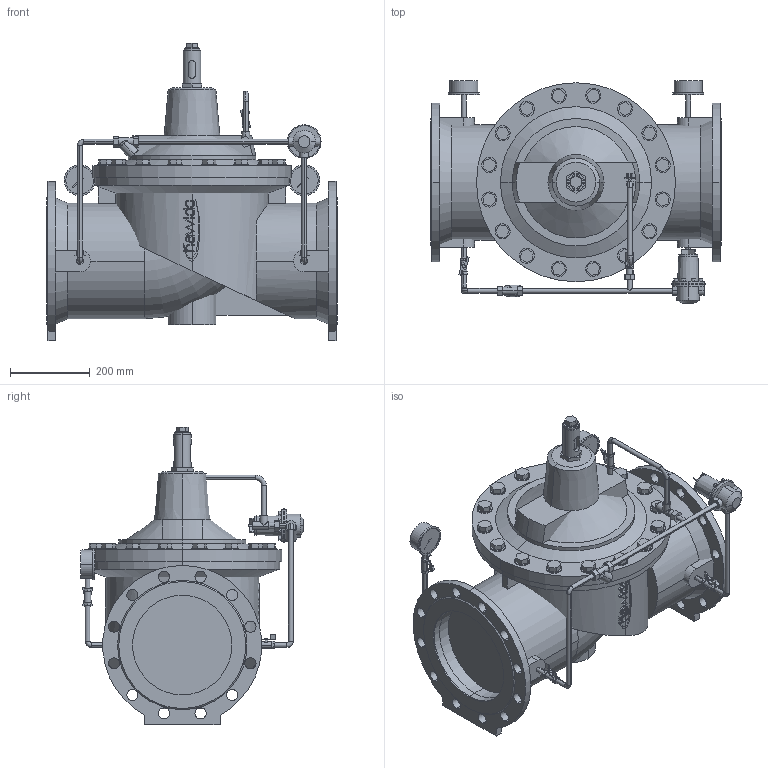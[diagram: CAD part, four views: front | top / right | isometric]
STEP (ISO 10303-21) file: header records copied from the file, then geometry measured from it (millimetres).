
FILE_DESCRIPTION(('STEP AP214'),'1');
FILE_NAME('S:/EK/USER/CAT6/3DHomepage_27-04-2012/neu_28-03-2013/1500/1500_PN16_DN250.STP','2013-04-08T08:59:21',(' '),(' '),'Spatial InterOp 3D',' ',' ');
FILE_SCHEMA(('automotive_design'));
Length unit declared in the file: millimetre
Products named in the file (191): 3D-Objekt
Bounding box: 730 x 560 x 747 mm (x, y, z)
Volume: 81954478.9 mm3; surface area: 4499193.3 mm2
Topology: 191 solids, 191 shells, 1344 faces, 2884 edges, 1926 vertices
Faces by surface type: plane 924, cylinder 375, cone 29, torus 16
Entity records: 52353 total; most frequent: CARTESIAN_POINT 7005, DIRECTION 6807, ORIENTED_EDGE 5768, EDGE_CURVE 2884, AXIS2_PLACEMENT_3D 2407, LINE 1993, VECTOR 1993, VERTEX_POINT 1926
